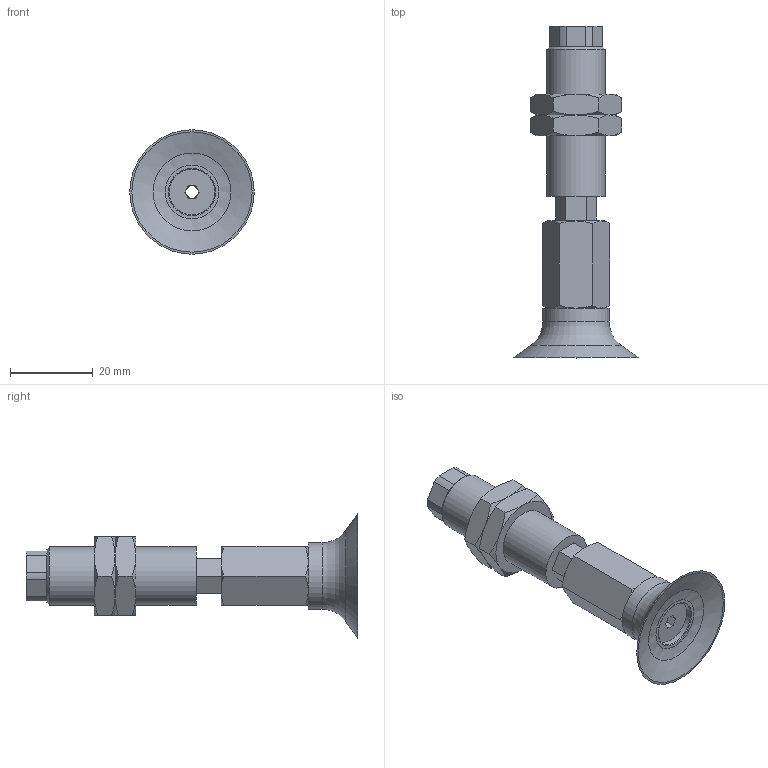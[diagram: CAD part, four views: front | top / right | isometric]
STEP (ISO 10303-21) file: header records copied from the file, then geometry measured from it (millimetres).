
FILE_DESCRIPTION(('STEP AP203'),'1');
FILE_NAME('.stp','2025-08-27T03:20:13',(' '),(' '),'Spatial InterOp 3D',' ',' ');
FILE_SCHEMA(('CONFIG_CONTROL_DESIGN'));
Length unit declared in the file: millimetre
Products named in the file (7): BNABPFTH-30-6-※; ADAPTER; NAPFTH-30-6-MBODY; TN-PF-30-M6-NAPF; Nut-30-6-h; NAPFTH-30-6-FBODY; BPFG-30-※
Assembly tree (7 placements, depth 2):
  BNABPFTH-30-6-※
    ADAPTER
    NAPFTH-30-6-MBODY
    TN-PF-30-M6-NAPF
    Nut-30-6-h  x2
    NAPFTH-30-6-FBODY
    BPFG-30-※
Bounding box: 30 x 80 x 30 mm (x, y, z)
Volume: 13971.3 mm3; surface area: 10932.4 mm2
Topology: 7 solids, 7 shells, 139 faces, 302 edges, 183 vertices
Faces by surface type: plane 68, cone 46, cylinder 19, torus 5, bspline 1
Full cylindrical faces by diameter (mm): 3 x3, 4.134 x1, 4.917 x1, 6 x2, 11 x2, 12.917 x2, 14 x1, 16 x1
Entity records: 3617 total; most frequent: CARTESIAN_POINT 863, DIRECTION 502, ORIENTED_EDGE 448, EDGE_CURVE 224, AXIS2_PLACEMENT_3D 203, EDGE_LOOP 160, VERTEX_POINT 152, FACE_OUTER_BOUND 134
